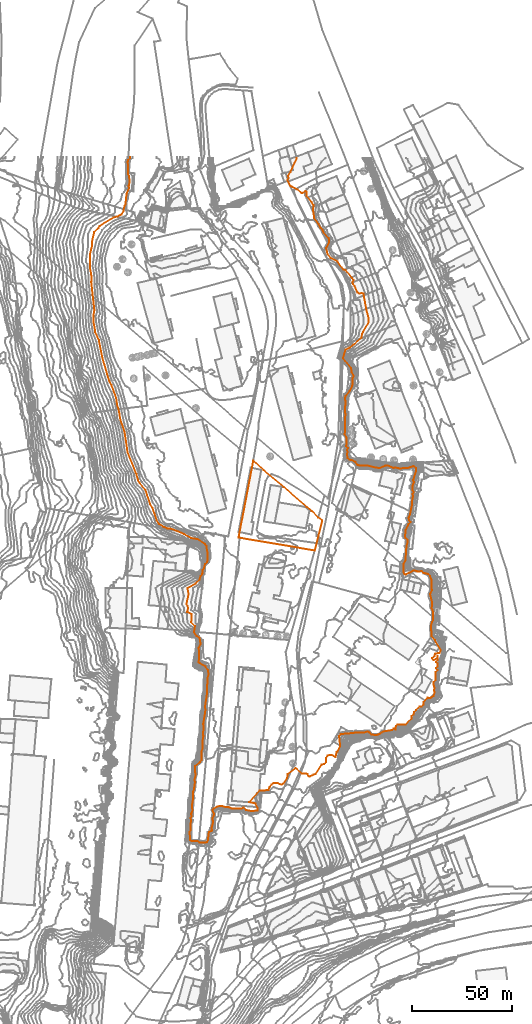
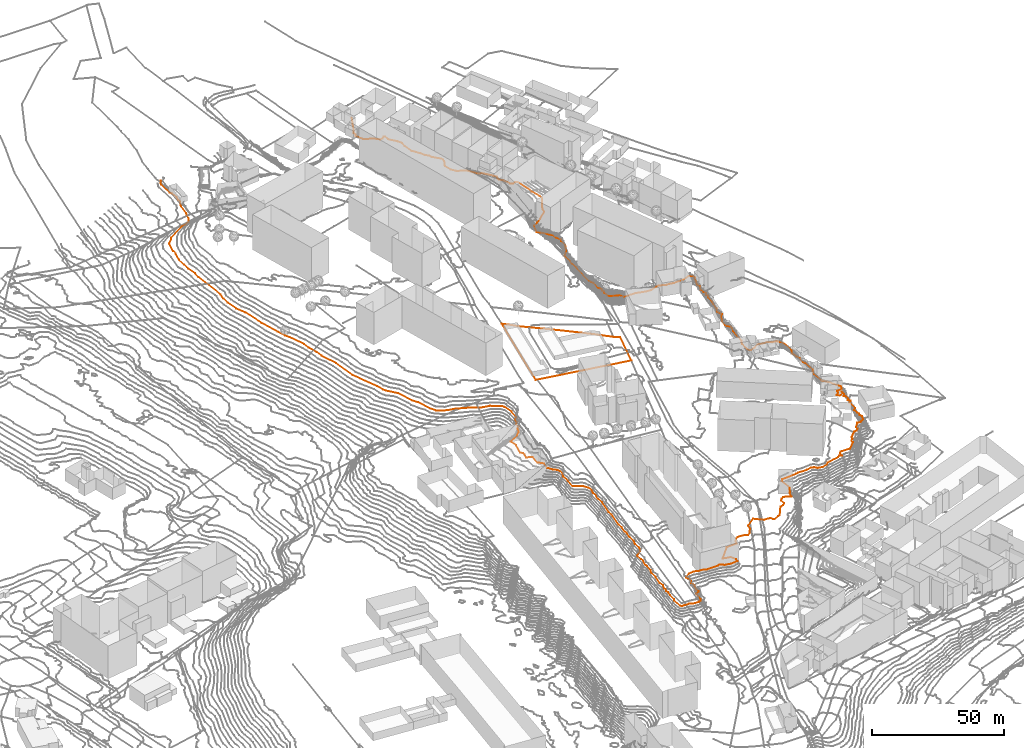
# Not in any storey, part 374 of 419: 2 proxies.
"""IFC2X3 model written with IfcOpenShell, lengths in metres."""

import ifcopenshell
import ifcopenshell.guid

model = None  # the IFC model being written
_history = None  # IfcOwnerHistory: only IFC2X3 demands one
_inside = {}  # id of a spatial element -> (the spatial element, [elements in it])
_under = {}  # id of a project, library or spatial element -> (it, [spatial elements below it])
_declared = {}  # id of a project -> (the project, [libraries it declares])
_typed = {}  # id of a type object -> (the type object, [elements of that type])
_made_of = {}  # id of a material, layer set ... -> (it, [elements and type objects made of it])


def new_model(schema):
    """Start an empty IFC model of exactly this schema.

    Asked for "IFC4X3", IfcOpenShell would pick the latest addendum, in which some entities
    have other attributes; the version numbers below select the first issue.
    IFC2X3 requires an IfcOwnerHistory on every rooted entity: one is made here for all.
    """
    global model, _history
    if schema == "IFC4X3":
        model = ifcopenshell.file(schema_version=(4, 3, 0, 0))
    else:
        model = ifcopenshell.file(schema=schema)
    _inside.clear()
    _under.clear()
    _declared.clear()
    _typed.clear()
    _made_of.clear()
    _history = None
    if model.schema == "IFC2X3":
        org = make("IfcOrganization", Name="unknown")
        user = make(
            "IfcPersonAndOrganization",
            ThePerson=make("IfcPerson", FamilyName="unknown"),
            TheOrganization=org,
        )
        app = make(
            "IfcApplication",
            ApplicationDeveloper=org,
            Version="unknown",
            ApplicationFullName="unknown",
            ApplicationIdentifier="unknown",
        )
        _history = make(
            "IfcOwnerHistory",
            OwningUser=user,
            OwningApplication=app,
            ChangeAction="ADDED",
            CreationDate=0,
        )
    return model


def make(cls, **values):
    """One entity of the class cls with the attributes given. An attribute that is None is left unset."""
    return model.create_entity(
        cls, **{name: value for name, value in values.items() if value is not None}
    )


def entity(cls, *values):
    """Any entity or typed value of the class cls, its attributes in the order of the schema. None: left unset."""
    e = model.create_entity(cls)
    for i, value in enumerate(values):
        if value is not None:
            e[i] = value
    return e


def rooted(cls, **values):
    """An entity with a GlobalId (a new one), such as an element, a storey or a relation."""
    return make(cls, GlobalId=ifcopenshell.guid.new(), OwnerHistory=_history, **values)


def si_unit(unit_type, name, prefix=None):
    """IfcSIUnit, for example si_unit("LENGTHUNIT", "METRE", prefix="MILLI")."""
    return make("IfcSIUnit", UnitType=unit_type, Prefix=prefix, Name=name)


def assignment(units):
    """IfcUnitAssignment: the units of a project."""
    return None if units is None else make("IfcUnitAssignment", Units=units)


def point(xyz):
    """IfcCartesianPoint."""
    return None if xyz is None else make("IfcCartesianPoint", Coordinates=xyz)


def direction(xyz):
    """IfcDirection."""
    return None if xyz is None else make("IfcDirection", DirectionRatios=xyz)


def frame(location, z_axis=None, x_axis=None):
    """IfcAxis2Placement3D, a coordinate frame: its origin and axes. An axis left out is left unset."""
    return make(
        "IfcAxis2Placement3D",
        Location=point(location),
        Axis=direction(z_axis),
        RefDirection=direction(x_axis),
    )


def origin_with_axes():
    """The frame at (0, 0, 0) with the z axis (0, 0, 1) and the x axis (1, 0, 0) written out."""
    return frame((0.0, 0.0, 0.0), z_axis=(0.0, 0.0, 1.0), x_axis=(1.0, 0.0, 0.0))


def place(relative_to, where):
    """IfcLocalPlacement: puts the frame where relative to a parent placement (None: the world)."""
    return make(
        "IfcLocalPlacement", PlacementRelTo=relative_to, RelativePlacement=where
    )


def context(
    kind, dimensions, precision=None, world=None, true_north=None, identifier=None
):
    """IfcGeometricRepresentationContext, for example the 3D "Model" context."""
    return make(
        "IfcGeometricRepresentationContext",
        ContextIdentifier=identifier,
        ContextType=kind,
        CoordinateSpaceDimension=dimensions,
        Precision=precision,
        WorldCoordinateSystem=world,
        TrueNorth=true_north,
    )


def subcontext(parent, identifier, kind, view, scale=None):
    """IfcGeometricRepresentationSubContext, for example "Body" below "Model"."""
    return make(
        "IfcGeometricRepresentationSubContext",
        ContextIdentifier=identifier,
        ContextType=kind,
        ParentContext=parent,
        TargetScale=scale,
        TargetView=view,
    )


def project(units=None, contexts=None):
    """IfcProject with its units and contexts."""
    return rooted(
        "IfcProject",
        Name="project",
        RepresentationContexts=contexts,
        UnitsInContext=assignment(units),
    )


def shape(context_of_items, identifier, shape_type, items):
    """IfcShapeRepresentation: the items that make up one representation, for example the "Body"."""
    return make(
        "IfcShapeRepresentation",
        ContextOfItems=context_of_items,
        RepresentationIdentifier=identifier,
        RepresentationType=shape_type,
        Items=items,
    )


def made_of(thing, what):
    """Note that an element or type object is made of a material, layer set ...; save() writes the relation."""
    if what is not None:
        _made_of.setdefault(what.id(), (what, []))[1].append(thing)
    return thing


def element(
    cls,
    number,
    at=None,
    inside=None,
    cuts=None,
    type_object=None,
    material=None,
    context=None,
    identifier="Body",
    shape_type=None,
    held_by="IfcProductDefinitionShape",
    body=None,
    shapes=None,
    **own,
):
    """One element of the class cls, such as IfcWall. Its Tag is "e" and its number.

    at: its placement. inside: the storey or other place that contains it. cuts: it is an
    opening in that element (IfcRelVoidsElement). A single representation is given by context,
    identifier, shape_type and body (its items); several are given by shapes. held_by: the class
    of the entity that holds the representations. save() writes the other relations.
    """
    e = rooted(cls, Tag="e%d" % number, ObjectPlacement=at, **own)
    if body is not None:
        shapes = [shape(context, identifier, shape_type, body)]
    if shapes is not None:
        e.Representation = make(held_by, Representations=shapes)
    if inside is not None:
        _inside.setdefault(inside.id(), (inside, []))[1].append(e)
    if cuts is not None:
        rooted(
            "IfcRelVoidsElement", RelatingBuildingElement=cuts, RelatedOpeningElement=e
        )
    if type_object is not None:
        _typed.setdefault(type_object.id(), (type_object, []))[1].append(e)
    return made_of(e, material)


def aggregate(whole, parts):
    """IfcRelAggregates: a whole, such as a stair, and the parts it consists of."""
    return rooted("IfcRelAggregates", RelatingObject=whole, RelatedObjects=parts)


def save(model, path):
    """Write the relations noted so far, then the file.

    IfcRelAggregates (storeys below a building ...), IfcRelContainedInSpatialStructure (elements
    in a storey), IfcRelDefinesByType, IfcRelAssociatesMaterial and IfcRelDeclares: one each for
    every whole, place, type object, material and project.
    """
    for whole, parts in _under.values():
        aggregate(whole, parts)
    for where, things in _inside.values():
        rooted(
            "IfcRelContainedInSpatialStructure",
            RelatedElements=things,
            RelatingStructure=where,
        )
    for kind, things in _typed.values():
        rooted("IfcRelDefinesByType", RelatedObjects=things, RelatingType=kind)
    for what, things in _made_of.values():
        rooted("IfcRelAssociatesMaterial", RelatedObjects=things, RelatingMaterial=what)
    for by, libraries in _declared.values():
        rooted("IfcRelDeclares", RelatingContext=by, RelatedDefinitions=libraries)
    model.write(path)


model = new_model("IFC2X3")

# Units and contexts
model_context = context("Model", 3, precision=1e-05, world=origin_with_axes())
body_context = subcontext(model_context, "Body", "Model", "MODEL_VIEW")
ifc_project = project(units=[si_unit("AREAUNIT", "SQUARE_METRE"), si_unit("LENGTHUNIT", "METRE")], contexts=[model_context])

# Proxies
proxy_1_placement = place(None, frame((868.5920204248, 842.0176909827, 97.2556001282), z_axis=(0.0, 0.0, 1.0), x_axis=(1.0, 0.0, 0.0)))
element("IfcBuildingElementProxy", 1, at=proxy_1_placement, Name="Cadastre 249", ObjectType="NOTDEFINED", context=body_context, shape_type="GeometricCurveSet", body=[
    entity("IfcGeometricCurveSet", [entity("IfcPolyline", [entity("IfcCartesianPoint", [7.4, 38.5999999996, 0.0872388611]), entity("IfcCartesianPoint", [12.4400000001, 33.8700000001, -0.0484991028]), entity("IfcCartesianPoint", [22.48, 25.46, 0.0099672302]), entity("IfcCartesianPoint", [34.04, 15.46, -0.0044833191]), entity("IfcCartesianPoint", [36.4500000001, 13.46, -0.1974195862]), entity("IfcCartesianPoint", [39.88, 10.1900000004, -0.1527721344]), entity("IfcCartesianPoint", [41.9, 8.6299999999, -0.121601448]), entity("IfcCartesianPoint", [38.12, -6.3600000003, -0.3680397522]), entity("IfcCartesianPoint", [0.6, -0.0099999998, 0.0168587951]), entity("IfcCartesianPoint", [0.0, 0.0, 0.0]), entity("IfcCartesianPoint", [0.0800000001, 0.2800000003, -0.0312808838]), entity("IfcCartesianPoint", [7.4, 38.5999999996, 0.0872388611])])]),
])
proxy_2_placement = place(None, frame((794.3543212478, 979.8976909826, 93.0), z_axis=(0.0, 0.0, 1.0), x_axis=(1.0, 0.0, 0.0)))
element("IfcBuildingElementProxy", 2, at=proxy_2_placement, Name="Contour 93.0 m", ObjectType="NOTDEFINED", context=body_context, shape_type="GeometricCurveSet", body=[
    entity("IfcGeometricCurveSet", [entity("IfcPolyline", [entity("IfcCartesianPoint", [103.4044082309, 52.5, 0.0]), entity("IfcCartesianPoint", [103.4044082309, 52.0, 0.0]), entity("IfcCartesianPoint", [100.1662550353, 45.0, 0.0]), entity("IfcCartesianPoint", [98.9876753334, 43.0, 0.0]), entity("IfcCartesianPoint", [99.337683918, 42.0, 0.0]), entity("IfcCartesianPoint", [98.7377491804, 41.0, 0.0]), entity("IfcCartesianPoint", [100.1662550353, 38.0, 0.0]), entity("IfcCartesianPoint", [100.737699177, 37.6363573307, 0.0]), entity("IfcCartesianPoint", [103.737699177, 36.1999694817, 0.0]), entity("IfcCartesianPoint", [105.737699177, 34.5000083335, 0.0]), entity("IfcCartesianPoint", [106.737699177, 34.6153755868, 0.0]), entity("IfcCartesianPoint", [107.737699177, 35.5454524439, 0.0]), entity("IfcCartesianPoint", [108.1992391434, 35.0, 0.0]), entity("IfcCartesianPoint", [108.3847540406, 33.0, 0.0]), entity("IfcCartesianPoint", [110.8376966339, 30.0, 0.0]), entity("IfcCartesianPoint", [111.737699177, 28.333333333, 0.0]), entity("IfcCartesianPoint", [111.5516485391, 26.0, 0.0]), entity("IfcCartesianPoint", [112.1455936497, 22.0, 0.0]), entity("IfcCartesianPoint", [114.2478004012, 19.0, 0.0]), entity("IfcCartesianPoint", [115.2734126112, 17.0, 0.0]), entity("IfcCartesianPoint", [116.3467225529, 16.0, 0.0]), entity("IfcCartesianPoint", [116.737699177, 14.7130422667, 0.0]), entity("IfcCartesianPoint", [119.3250016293, 12.0, 0.0]), entity("IfcCartesianPoint", [119.6394845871, 11.0, 0.0]), entity("IfcCartesianPoint", [119.5855256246, 10.0, 0.0]), entity("IfcCartesianPoint", [118.1152517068, 7.0, 0.0]), entity("IfcCartesianPoint", [118.7910337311, 4.0, 0.0]), entity("IfcCartesianPoint", [120.3530871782, 2.0, 0.0]), entity("IfcCartesianPoint", [123.737699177, 0.2696607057, 0.0]), entity("IfcCartesianPoint", [126.737699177, -3.8831211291, 0.0]), entity("IfcCartesianPoint", [127.8091316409, -4.0, 0.0]), entity("IfcCartesianPoint", [131.0710325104, -8.0, 0.0]), entity("IfcCartesianPoint", [131.6710426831, -9.0, 0.0]), entity("IfcCartesianPoint", [131.3210166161, -10.0, 0.0]), entity("IfcCartesianPoint", [131.4377068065, -11.0, 0.0]), entity("IfcCartesianPoint", [132.3377296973, -12.0, 0.0]), entity("IfcCartesianPoint", [133.737699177, -15.2000305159, 0.0]), entity("IfcCartesianPoint", [134.737699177, -15.8333121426, 0.0]), entity("IfcCartesianPoint", [135.737699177, -15.4999833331, 0.0]), entity("IfcCartesianPoint", [136.737699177, -15.7999694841, 0.0]), entity("IfcCartesianPoint", [138.2260687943, -24.0, 0.0]), entity("IfcCartesianPoint", [139.3127053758, -28.0, 0.0]), entity("IfcCartesianPoint", [139.3626967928, -30.0, 0.0]), entity("IfcCartesianPoint", [136.4550958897, -35.0, 0.0]), entity("IfcCartesianPoint", [136.0008598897, -36.0, 0.0]), entity("IfcCartesianPoint", [135.737699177, -37.7499904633, 0.0]), entity("IfcCartesianPoint", [131.737699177, -41.333333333, 0.0]), entity("IfcCartesianPoint", [129.737699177, -42.8395090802, 0.0]), entity("IfcCartesianPoint", [127.737699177, -43.8360682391, 0.0]), entity("IfcCartesianPoint", [126.4666702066, -48.0, 0.0]), entity("IfcCartesianPoint", [130.5768951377, -53.0, 0.0]), entity("IfcCartesianPoint", [130.8525914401, -55.0, 0.0]), entity("IfcCartesianPoint", [131.8727759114, -57.0, 0.0]), entity("IfcCartesianPoint", [131.3351016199, -58.0, 0.0]), entity("IfcCartesianPoint", [131.3456541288, -61.0, 0.0]), entity("IfcCartesianPoint", [131.0254896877, -62.0, 0.0]), entity("IfcCartesianPoint", [129.737699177, -64.6371942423, 0.0]), entity("IfcCartesianPoint", [127.8232451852, -67.0, 0.0]), entity("IfcCartesianPoint", [127.5990334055, -68.0, 0.0]), entity("IfcCartesianPoint", [127.7594374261, -71.0, 0.0]), entity("IfcCartesianPoint", [127.4557720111, -73.0, 0.0]), entity("IfcCartesianPoint", [127.6800543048, -76.0, 0.0]), entity("IfcCartesianPoint", [127.3863474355, -86.0, 0.0]), entity("IfcCartesianPoint", [128.3536747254, -88.0, 0.0]), entity("IfcCartesianPoint", [128.1365263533, -92.0, 0.0]), entity("IfcCartesianPoint", [128.9757944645, -93.0, 0.0]), entity("IfcCartesianPoint", [128.5165455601, -94.0, 0.0]), entity("IfcCartesianPoint", [128.7640677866, -95.0, 0.0]), entity("IfcCartesianPoint", [128.5586865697, -96.0, 0.0]), entity("IfcCartesianPoint", [128.7269853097, -98.0, 0.0]), entity("IfcCartesianPoint", [129.737699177, -98.8419871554, 0.0]), entity("IfcCartesianPoint", [130.737699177, -98.9878547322, 0.0]), entity("IfcCartesianPoint", [132.737699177, -99.9861870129, 0.0]), entity("IfcCartesianPoint", [133.737699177, -101.5024617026, 0.0]), entity("IfcCartesianPoint", [134.737699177, -101.6827964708, 0.0]), entity("IfcCartesianPoint", [138.737699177, -101.8018430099, 0.0]), entity("IfcCartesianPoint", [142.737699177, -102.8160919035, 0.0]), entity("IfcCartesianPoint", [144.737699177, -102.9999994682, 0.0]), entity("IfcCartesianPoint", [147.737699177, -101.807818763, 0.0]), entity("IfcCartesianPoint", [148.737699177, -101.7994717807, 0.0]), entity("IfcCartesianPoint", [151.737699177, -102.9353618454, 0.0]), entity("IfcCartesianPoint", [152.737699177, -102.8181818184, 0.0]), entity("IfcCartesianPoint", [154.737699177, -103.2206893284, 0.0]), entity("IfcCartesianPoint", [158.737699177, -102.9637110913, 0.0]), entity("IfcCartesianPoint", [161.737699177, -102.138888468, 0.0]), entity("IfcCartesianPoint", [163.030968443, -103.0, 0.0]), entity("IfcCartesianPoint", [163.1384074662, -104.0, 0.0]), entity("IfcCartesianPoint", [161.6151171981, -109.0, 0.0]), entity("IfcCartesianPoint", [161.9444669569, -110.0, 0.0]), entity("IfcCartesianPoint", [161.2542539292, -112.0, 0.0]), entity("IfcCartesianPoint", [161.366363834, -114.0, 0.0]), entity("IfcCartesianPoint", [161.8814907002, -115.0, 0.0]), entity("IfcCartesianPoint", [161.2836042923, -116.0, 0.0]), entity("IfcCartesianPoint", [161.6100386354, -117.0, 0.0]), entity("IfcCartesianPoint", [161.1748850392, -118.0, 0.0]), entity("IfcCartesianPoint", [161.0545492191, -121.0, 0.0]), entity("IfcCartesianPoint", [160.0415949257, -126.0, 0.0]), entity("IfcCartesianPoint", [159.3236019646, -128.0, 0.0]), entity("IfcCartesianPoint", [159.5486246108, -129.0, 0.0]), entity("IfcCartesianPoint", [160.169975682, -130.0, 0.0]), entity("IfcCartesianPoint", [159.2112185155, -131.0, 0.0]), entity("IfcCartesianPoint", [157.8545824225, -134.0, 0.0]), entity("IfcCartesianPoint", [157.5234124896, -137.0, 0.0]), entity("IfcCartesianPoint", [157.7930171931, -138.0, 0.0]), entity("IfcCartesianPoint", [158.8265884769, -139.0, 0.0]), entity("IfcCartesianPoint", [158.8312669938, -140.0, 0.0]), entity("IfcCartesianPoint", [158.2213053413, -142.0, 0.0]), entity("IfcCartesianPoint", [157.7376997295, -149.0, 0.0]), entity("IfcCartesianPoint", [156.7770715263, -151.0, 0.0]), entity("IfcCartesianPoint", [156.7811785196, -155.0, 0.0]), entity("IfcCartesianPoint", [157.2138844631, -156.0, 0.0]), entity("IfcCartesianPoint", [157.737699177, -156.1428571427, 0.0]), entity("IfcCartesianPoint", [159.737699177, -155.3789492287, 0.0]), entity("IfcCartesianPoint", [161.737699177, -154.1455389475, 0.0]), entity("IfcCartesianPoint", [163.737699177, -154.659673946, 0.0]), entity("IfcCartesianPoint", [165.737699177, -154.6262627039, 0.0]), entity("IfcCartesianPoint", [166.737699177, -155.4179690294, 0.0]), entity("IfcCartesianPoint", [168.987702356, -156.0, 0.0]), entity("IfcCartesianPoint", [170.0371007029, -157.0, 0.0]), entity("IfcCartesianPoint", [170.7517813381, -159.0, 0.0]), entity("IfcCartesianPoint", [170.8969918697, -164.0, 0.0]), entity("IfcCartesianPoint", [170.08252699, -166.0, 0.0]), entity("IfcCartesianPoint", [171.0342517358, -170.0, 0.0]), entity("IfcCartesianPoint", [170.8608865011, -173.0, 0.0]), entity("IfcCartesianPoint", [171.381263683, -174.0, 0.0]), entity("IfcCartesianPoint", [171.5329369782, -179.0, 0.0]), entity("IfcCartesianPoint", [170.9723564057, -180.0, 0.0]), entity("IfcCartesianPoint", [170.4669557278, -182.0, 0.0]), entity("IfcCartesianPoint", [170.8713611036, -187.0, 0.0]), entity("IfcCartesianPoint", [172.4422438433, -189.0, 0.0]), entity("IfcCartesianPoint", [175.337699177, -194.0, 0.0]), entity("IfcCartesianPoint", [174.737699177, -195.5000124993, 0.0]), entity("IfcCartesianPoint", [172.737699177, -195.7272853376, 0.0]), entity("IfcCartesianPoint", [172.4043658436, -196.0, 0.0]), entity("IfcCartesianPoint", [172.2377491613, -197.0, 0.0]), entity("IfcCartesianPoint", [171.0711172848, -198.0, 0.0]), entity("IfcCartesianPoint", [171.737699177, -198.9999499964, 0.0]), entity("IfcCartesianPoint", [173.7375992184, -198.0, 0.0]), entity("IfcCartesianPoint", [173.7377991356, -197.0, 0.0]), entity("IfcCartesianPoint", [173.737699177, -199.0740625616, 0.0]), entity("IfcCartesianPoint", [172.9043743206, -200.0, 0.0]), entity("IfcCartesianPoint", [173.737699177, -200.714288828, 0.0]), entity("IfcCartesianPoint", [173.737699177, -202.2121215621, 0.0]), entity("IfcCartesianPoint", [172.9376968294, -203.0, 0.0]), entity("IfcCartesianPoint", [173.7571920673, -204.0, 0.0]), entity("IfcCartesianPoint", [172.7717425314, -205.0, 0.0]), entity("IfcCartesianPoint", [172.7715982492, -209.0, 0.0]), entity("IfcCartesianPoint", [171.7878912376, -210.0, 0.0]), entity("IfcCartesianPoint", [171.908749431, -212.0, 0.0]), entity("IfcCartesianPoint", [172.2640107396, -213.0, 0.0]), entity("IfcCartesianPoint", [171.8977028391, -214.0, 0.0]), entity("IfcCartesianPoint", [172.3029151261, -215.0, 0.0]), entity("IfcCartesianPoint", [171.7376998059, -217.0, 0.0]), entity("IfcCartesianPoint", [170.737699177, -217.4444538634, 0.0]), entity("IfcCartesianPoint", [170.2615138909, -218.0, 0.0]), entity("IfcCartesianPoint", [169.0906297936, -218.0, 0.0]), entity("IfcCartesianPoint", [168.737699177, -217.6842147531, 0.0]), entity("IfcCartesianPoint", [166.8300071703, -220.0, 0.0]), entity("IfcCartesianPoint", [166.737699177, -221.2456130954, 0.0]), entity("IfcCartesianPoint", [165.737699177, -222.1927750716, 0.0]), entity("IfcCartesianPoint", [164.737699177, -222.2826032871, 0.0]), entity("IfcCartesianPoint", [162.9337737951, -224.0, 0.0]), entity("IfcCartesianPoint", [162.0710325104, -225.0, 0.0]), entity("IfcCartesianPoint", [161.737699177, -226.1384572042, 0.0]), entity("IfcCartesianPoint", [160.8627021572, -227.0, 0.0]), entity("IfcCartesianPoint", [160.737699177, -228.1799926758, 0.0]), entity("IfcCartesianPoint", [157.737699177, -231.2285776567, 0.0]), entity("IfcCartesianPoint", [153.737699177, -231.1506850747, 0.0]), entity("IfcCartesianPoint", [152.9110288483, -232.0, 0.0]), entity("IfcCartesianPoint", [152.737699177, -233.8260855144, 0.0]), entity("IfcCartesianPoint", [151.737699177, -233.3164553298, 0.0]), entity("IfcCartesianPoint", [150.9662743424, -234.0, 0.0]), entity("IfcCartesianPoint", [146.737699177, -234.6648945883, 0.0]), entity("IfcCartesianPoint", [145.737699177, -235.1329109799, 0.0]), entity("IfcCartesianPoint", [144.737699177, -236.050897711, 0.0]), entity("IfcCartesianPoint", [142.737699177, -236.5906977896, 0.0]), entity("IfcCartesianPoint", [140.737699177, -236.1568125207, 0.0]), entity("IfcCartesianPoint", [139.737699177, -235.1495722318, 0.0]), entity("IfcCartesianPoint", [138.737699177, -234.7344632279, 0.0]), entity("IfcCartesianPoint", [136.737699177, -235.2378854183, 0.0]), entity("IfcCartesianPoint", [132.737699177, -235.1333324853, 0.0]), entity("IfcCartesianPoint", [131.737699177, -235.4719083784, 0.0]), entity("IfcCartesianPoint", [125.3574217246, -236.0, 0.0]), entity("IfcCartesianPoint", [124.5764072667, -237.0, 0.0]), entity("IfcCartesianPoint", [125.0741484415, -242.0, 0.0]), entity("IfcCartesianPoint", [123.737699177, -244.648651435, 0.0]), entity("IfcCartesianPoint", [123.3043683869, -245.0, 0.0]), entity("IfcCartesianPoint", [122.737699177, -247.5833174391, 0.0]), entity("IfcCartesianPoint", [120.737699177, -246.5000124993, 0.0]), entity("IfcCartesianPoint", [119.737699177, -246.4444350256, 0.0]), entity("IfcCartesianPoint", [118.737699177, -246.8571389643, 0.0]), entity("IfcCartesianPoint", [117.9460404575, -248.0, 0.0]), entity("IfcCartesianPoint", [118.0814514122, -250.0, 0.0]), entity("IfcCartesianPoint", [117.0407231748, -251.0, 0.0]), entity("IfcCartesianPoint", [115.737699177, -251.2777801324, 0.0]), entity("IfcCartesianPoint", [112.737699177, -255.8749970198, 0.0]), entity("IfcCartesianPoint", [111.737699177, -256.3500038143, 0.0]), entity("IfcCartesianPoint", [109.737699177, -257.1666454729, 0.0]), entity("IfcCartesianPoint", [109.237674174, -257.0, 0.0]), entity("IfcCartesianPoint", [108.7376741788, -256.0, 0.0]), entity("IfcCartesianPoint", [107.737699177, -255.666666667, 0.0]), entity("IfcCartesianPoint", [105.737699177, -255.642833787, 0.0]), entity("IfcCartesianPoint", [102.737699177, -253.0000083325, 0.0]), entity("IfcCartesianPoint", [98.8847652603, -256.0, 0.0]), entity("IfcCartesianPoint", [98.5558822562, -258.0, 0.0]), entity("IfcCartesianPoint", [96.737699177, -260.6304380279, 0.0]), entity("IfcCartesianPoint", [95.737699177, -261.3421005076, 0.0]), entity("IfcCartesianPoint", [93.737699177, -260.5454524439, 0.0]), entity("IfcCartesianPoint", [91.737699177, -260.4912261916, 0.0]), entity("IfcCartesianPoint", [90.737699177, -261.1509471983, 0.0]), entity("IfcCartesianPoint", [89.737699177, -262.3913057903, 0.0]), entity("IfcCartesianPoint", [89.185066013, -264.0, 0.0]), entity("IfcCartesianPoint", [84.737699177, -264.3238074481, 0.0]), entity("IfcCartesianPoint", [79.6127031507, -270.0, 0.0]), entity("IfcCartesianPoint", [82.737699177, -270.7073129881, 0.0]), entity("IfcCartesianPoint", [83.8364637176, -273.0, 0.0]), entity("IfcCartesianPoint", [83.737699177, -274.1504412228, 0.0]), entity("IfcCartesianPoint", [80.737699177, -274.5566016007, 0.0]), entity("IfcCartesianPoint", [78.0821432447, -274.0, 0.0]), entity("IfcCartesianPoint", [76.737699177, -272.756101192, 0.0]), entity("IfcCartesianPoint", [75.737699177, -273.1419359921, 0.0]), entity("IfcCartesianPoint", [70.737699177, -273.1181566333, 0.0]), entity("IfcCartesianPoint", [69.737699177, -272.6236576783, 0.0]), entity("IfcCartesianPoint", [67.737699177, -272.5132737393, 0.0]), entity("IfcCartesianPoint", [65.737699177, -271.9218701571, 0.0]), entity("IfcCartesianPoint", [63.737699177, -272.1707313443, 0.0]), entity("IfcCartesianPoint", [61.737699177, -273.3300018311, 0.0]), entity("IfcCartesianPoint", [61.3365022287, -274.0, 0.0]), entity("IfcCartesianPoint", [62.0139307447, -276.0, 0.0]), entity("IfcCartesianPoint", [61.8501396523, -277.0, 0.0]), entity("IfcCartesianPoint", [61.3020139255, -278.0, 0.0]), entity("IfcCartesianPoint", [61.5268562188, -280.0, 0.0]), entity("IfcCartesianPoint", [60.8190234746, -283.0, 0.0]), entity("IfcCartesianPoint", [60.9981160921, -284.0, 0.0]), entity("IfcCartesianPoint", [60.737699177, -284.3906253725, 0.0]), entity("IfcCartesianPoint", [59.46698176, -285.0, 0.0]), entity("IfcCartesianPoint", [58.9939809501, -289.0, 0.0]), entity("IfcCartesianPoint", [58.4473803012, -290.0, 0.0]), entity("IfcCartesianPoint", [57.737699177, -290.2920367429, 0.0]), entity("IfcCartesianPoint", [54.737699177, -290.1491944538, 0.0]), entity("IfcCartesianPoint", [53.737699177, -289.4605263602, 0.0]), entity("IfcCartesianPoint", [51.737699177, -289.564767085, 0.0]), entity("IfcCartesianPoint", [50.737699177, -289.4202342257, 0.0]), entity("IfcCartesianPoint", [50.0986457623, -289.0, 0.0]), entity("IfcCartesianPoint", [49.8293665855, -285.0, 0.0]), entity("IfcCartesianPoint", [50.2600202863, -284.0, 0.0]), entity("IfcCartesianPoint", [50.2808036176, -281.0, 0.0]), entity("IfcCartesianPoint", [50.6008166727, -279.0, 0.0]), entity("IfcCartesianPoint", [50.370001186, -278.0, 0.0]), entity("IfcCartesianPoint", [50.7932543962, -277.0, 0.0]), entity("IfcCartesianPoint", [50.6483138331, -276.0, 0.0]), entity("IfcCartesianPoint", [51.239902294, -274.0, 0.0]), entity("IfcCartesianPoint", [50.9998945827, -272.0, 0.0]), entity("IfcCartesianPoint", [51.5632813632, -268.0, 0.0]), entity("IfcCartesianPoint", [51.4933167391, -265.0, 0.0]), entity("IfcCartesianPoint", [52.1300442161, -263.0, 0.0]), entity("IfcCartesianPoint", [52.4678585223, -260.0, 0.0]), entity("IfcCartesianPoint", [52.2280835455, -259.0, 0.0]), entity("IfcCartesianPoint", [52.8778273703, -256.0, 0.0]), entity("IfcCartesianPoint", [52.6289375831, -255.0, 0.0]), entity("IfcCartesianPoint", [52.6503758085, -252.0, 0.0]), entity("IfcCartesianPoint", [54.9894478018, -250.0, 0.0]), entity("IfcCartesianPoint", [55.6810941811, -249.0, 0.0]), entity("IfcCartesianPoint", [55.8571014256, -248.0, 0.0]), entity("IfcCartesianPoint", [55.6998983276, -245.0, 0.0]), entity("IfcCartesianPoint", [56.3393931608, -243.0, 0.0]), entity("IfcCartesianPoint", [56.18214271, -240.0, 0.0]), entity("IfcCartesianPoint", [56.6919254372, -237.0, 0.0]), entity("IfcCartesianPoint", [56.4489457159, -236.0, 0.0]), entity("IfcCartesianPoint", [56.8227190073, -233.0, 0.0]), entity("IfcCartesianPoint", [56.6517385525, -231.0, 0.0]), entity("IfcCartesianPoint", [57.7151186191, -224.0, 0.0]), entity("IfcCartesianPoint", [57.591919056, -222.0, 0.0]), entity("IfcCartesianPoint", [58.6170648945, -215.0, 0.0]), entity("IfcCartesianPoint", [58.4768302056, -212.0, 0.0]), entity("IfcCartesianPoint", [58.8407928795, -210.0, 0.0]), entity("IfcCartesianPoint", [58.7295694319, -208.0, 0.0]), entity("IfcCartesianPoint", [59.3320050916, -206.0, 0.0]), entity("IfcCartesianPoint", [58.9385368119, -204.0, 0.0]), entity("IfcCartesianPoint", [57.737699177, -202.2454518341, 0.0]), entity("IfcCartesianPoint", [54.737699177, -200.5467643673, 0.0]), entity("IfcCartesianPoint", [54.35578961, -200.0, 0.0]), entity("IfcCartesianPoint", [54.6243670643, -196.0, 0.0]), entity("IfcCartesianPoint", [54.3659045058, -193.0, 0.0]), entity("IfcCartesianPoint", [55.1890263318, -191.0, 0.0]), entity("IfcCartesianPoint", [55.1371961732, -189.0, 0.0]), entity("IfcCartesianPoint", [54.6736593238, -188.0, 0.0]), entity("IfcCartesianPoint", [53.3401580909, -187.0, 0.0]), entity("IfcCartesianPoint", [52.0626973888, -185.0, 0.0]), entity("IfcCartesianPoint", [52.4660919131, -182.0, 0.0]), entity("IfcCartesianPoint", [50.6576973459, -180.0, 0.0]), entity("IfcCartesianPoint", [50.7811702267, -176.0, 0.0]), entity("IfcCartesianPoint", [48.612699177, -175.0, 0.0]), entity("IfcCartesianPoint", [49.0359417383, -173.0, 0.0]), entity("IfcCartesianPoint", [48.877228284, -172.0, 0.0]), entity("IfcCartesianPoint", [48.2615138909, -171.0, 0.0]), entity("IfcCartesianPoint", [49.3121679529, -166.0, 0.0]), entity("IfcCartesianPoint", [48.7917448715, -163.0, 0.0]), entity("IfcCartesianPoint", [52.737699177, -160.7808179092, 0.0]), entity("IfcCartesianPoint", [54.737699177, -158.7155976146, 0.0]), entity("IfcCartesianPoint", [55.2389981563, -157.0, 0.0]), entity("IfcCartesianPoint", [56.1586181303, -156.0, 0.0]), entity("IfcCartesianPoint", [56.3778371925, -154.0, 0.0]), entity("IfcCartesianPoint", [57.0138498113, -153.0, 0.0]), entity("IfcCartesianPoint", [57.4931468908, -151.0, 0.0]), entity("IfcCartesianPoint", [58.6434356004, -150.0, 0.0]), entity("IfcCartesianPoint", [58.8633274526, -146.0, 0.0]), entity("IfcCartesianPoint", [58.207896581, -142.0, 0.0]), entity("IfcCartesianPoint", [57.5846369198, -141.0, 0.0]), entity("IfcCartesianPoint", [53.737699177, -138.634328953, 0.0]), entity("IfcCartesianPoint", [50.5376953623, -138.0, 0.0]), entity("IfcCartesianPoint", [46.944586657, -136.0, 0.0]), entity("IfcCartesianPoint", [40.737699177, -133.4556964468, 0.0]), entity("IfcCartesianPoint", [38.737699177, -133.1600036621, 0.0]), entity("IfcCartesianPoint", [36.737699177, -132.4318164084, 0.0]), entity("IfcCartesianPoint", [34.5333955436, -131.0, 0.0]), entity("IfcCartesianPoint", [33.3781487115, -129.0, 0.0]), entity("IfcCartesianPoint", [31.2961435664, -123.0, 0.0]), entity("IfcCartesianPoint", [30.1102514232, -121.0, 0.0]), entity("IfcCartesianPoint", [27.7799510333, -114.0, 0.0]), entity("IfcCartesianPoint", [24.737699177, -110.3265344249, 0.0]), entity("IfcCartesianPoint", [24.0193853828, -109.0, 0.0]), entity("IfcCartesianPoint", [23.2019861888, -106.0, 0.0]), entity("IfcCartesianPoint", [18.8108669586, -95.0, 0.0]), entity("IfcCartesianPoint", [17.3230693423, -85.0, 0.0]), entity("IfcCartesianPoint", [15.0171144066, -78.0, 0.0]), entity("IfcCartesianPoint", [14.6641653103, -75.0, 0.0]), entity("IfcCartesianPoint", [13.5217885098, -71.0, 0.0]), entity("IfcCartesianPoint", [13.1427616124, -68.0, 0.0]), entity("IfcCartesianPoint", [10.737699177, -61.4545475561, 0.0]), entity("IfcCartesianPoint", [9.737699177, -59.7037016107, 0.0]), entity("IfcCartesianPoint", [8.6033759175, -56.0, 0.0]), entity("IfcCartesianPoint", [6.2533275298, -48.0, 0.0]), entity("IfcCartesianPoint", [4.4333537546, -39.0, 0.0]), entity("IfcCartesianPoint", [2.6710284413, -35.0, 0.0]), entity("IfcCartesianPoint", [1.8136453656, -30.0, 0.0]), entity("IfcCartesianPoint", [1.6954473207, -27.0, 0.0]), entity("IfcCartesianPoint", [2.2060565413, -24.0, 0.0]), entity("IfcCartesianPoint", [0.670127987, -10.0, 0.0]), entity("IfcCartesianPoint", [0.7514006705, -7.0, 0.0]), entity("IfcCartesianPoint", [0.075939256, -3.0, 0.0]), entity("IfcCartesianPoint", [0.0, 0.0, 0.0]), entity("IfcCartesianPoint", [0.0534893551, 4.0, 0.0]), entity("IfcCartesianPoint", [1.0104277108, 8.0, 0.0]), entity("IfcCartesianPoint", [0.964971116, 10.0, 0.0]), entity("IfcCartesianPoint", [2.1451023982, 15.0, 0.0]), entity("IfcCartesianPoint", [4.1859641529, 17.0, 0.0]), entity("IfcCartesianPoint", [4.737699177, 18.0232607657, 0.0]), entity("IfcCartesianPoint", [11.737699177, 22.254238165, 0.0]), entity("IfcCartesianPoint", [13.737699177, 22.7846168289, 0.0]), entity("IfcCartesianPoint", [15.737699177, 23.7656223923, 0.0]), entity("IfcCartesianPoint", [16.737699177, 25.4545359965, 0.0]), entity("IfcCartesianPoint", [17.2308484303, 28.0, 0.0]), entity("IfcCartesianPoint", [17.7439116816, 29.0, 0.0]), entity("IfcCartesianPoint", [18.283917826, 34.0, 0.0]), entity("IfcCartesianPoint", [19.5376966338, 37.0, 0.0]), entity("IfcCartesianPoint", [19.4043658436, 38.0, 0.0]), entity("IfcCartesianPoint", [19.8700481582, 40.0, 0.0]), entity("IfcCartesianPoint", [19.5189499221, 43.0, 0.0]), entity("IfcCartesianPoint", [19.0530858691, 44.0, 0.0]), entity("IfcCartesianPoint", [18.907343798, 50.0, 0.0]), entity("IfcCartesianPoint", [19.1229456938, 51.0, 0.0]), entity("IfcCartesianPoint", [20.0629986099, 52.0, 0.0]), entity("IfcCartesianPoint", [20.0629986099, 52.5, 0.0])])]),
])

save(model, "model.ifc")
